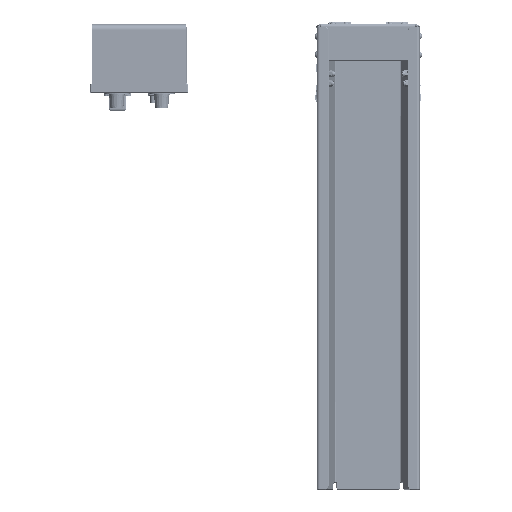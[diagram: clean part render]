
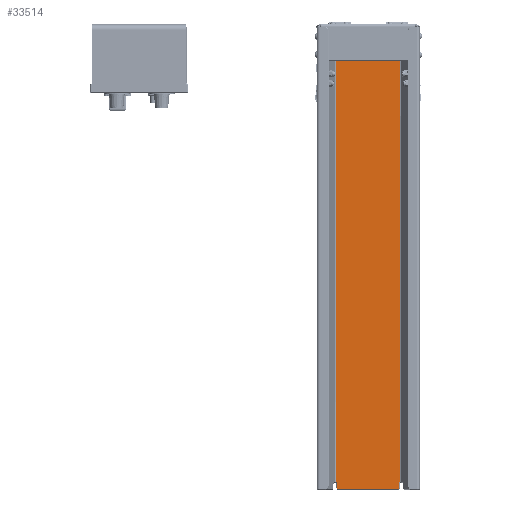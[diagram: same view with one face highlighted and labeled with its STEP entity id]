
A CAD part, top view. The second image highlights one B-rep face of the part: STEP entity #33514.
In plain terms, the highlighted planar face has unit normal (0, 0, 1).
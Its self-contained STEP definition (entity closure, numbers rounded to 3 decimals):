
#4 = VERTEX_POINT ( 'NONE', #5348 ) ;
#3694 = LINE ( 'NONE', #120792, #110603 ) ;
#5348 = CARTESIAN_POINT ( 'NONE',  ( 43.145, 288.05, 0. ) ) ;
#5616 = ORIENTED_EDGE ( 'NONE', *, *, #18194, .T. ) ;
#5849 = B_SPLINE_CURVE_WITH_KNOTS ( 'NONE', 3,
 ( #103730, #45209, #10578, #22112 ),
 .UNSPECIFIED., .F., .F.,
 ( 4, 4 ),
 ( 0., 1. ),
 .UNSPECIFIED. ) ;
#7528 = AXIS2_PLACEMENT_3D ( 'NONE', #67692, #19205, #91540 ) ;
#7710 = VERTEX_POINT ( 'NONE', #70841 ) ;
#9347 = CARTESIAN_POINT ( 'NONE',  ( -43.183, -298.05, 0. ) ) ;
#9932 = LINE ( 'NONE', #125450, #13293 ) ;
#10578 = CARTESIAN_POINT ( 'NONE',  ( 43.158, -298.044, 0. ) ) ;
#10917 = VERTEX_POINT ( 'NONE', #135264 ) ;
#11038 = CARTESIAN_POINT ( 'NONE',  ( 40.145, 298.05, 0. ) ) ;
#13293 = VECTOR ( 'NONE', #148526, 1000. ) ;
#13675 = B_SPLINE_CURVE_WITH_KNOTS ( 'NONE', 3,
 ( #55534, #103271, #140227, #9347 ),
 .UNSPECIFIED., .F., .F.,
 ( 4, 4 ),
 ( 0., 1. ),
 .UNSPECIFIED. ) ;
#18194 = EDGE_CURVE ( 'NONE', #23589, #65224, #129537, .T. ) ;
#19205 = DIRECTION ( 'NONE',  ( 0., 0., 1. ) ) ;
#19907 = ORIENTED_EDGE ( 'NONE', *, *, #80364, .T. ) ;
#20561 = LINE ( 'NONE', #76050, #103584 ) ;
#21300 = LINE ( 'NONE', #150641, #24625 ) ;
#22112 = CARTESIAN_POINT ( 'NONE',  ( 43.145, -298.041, 0. ) ) ;
#22871 = CARTESIAN_POINT ( 'NONE',  ( -40.145, 295.75, 0. ) ) ;
#23282 = ORIENTED_EDGE ( 'NONE', *, *, #32099, .T. ) ;
#23400 = ORIENTED_EDGE ( 'NONE', *, *, #134341, .T. ) ;
#23589 = VERTEX_POINT ( 'NONE', #71997 ) ;
#24625 = VECTOR ( 'NONE', #68282, 1000. ) ;
#28270 = CARTESIAN_POINT ( 'NONE',  ( 43.145, -298.041, 0. ) ) ;
#29088 = DIRECTION ( 'NONE',  ( -1., 0., 0. ) ) ;
#32099 = EDGE_CURVE ( 'NONE', #56813, #7710, #106124, .T. ) ;
#32600 = CARTESIAN_POINT ( 'NONE',  ( 40.145, 295.75, 0. ) ) ;
#33426 = ORIENTED_EDGE ( 'NONE', *, *, #141768, .T. ) ;
#33501 = VERTEX_POINT ( 'NONE', #88517 ) ;
#33514 = ADVANCED_FACE ( 'NONE', ( #44574 ), #90014, .T. ) ;
#35182 = DIRECTION ( 'NONE',  ( 1., 0., 0. ) ) ;
#36971 = VECTOR ( 'NONE', #134729, 1000. ) ;
#38899 = LINE ( 'NONE', #85119, #62343 ) ;
#39238 = ORIENTED_EDGE ( 'NONE', *, *, #94015, .T. ) ;
#39889 = DIRECTION ( 'NONE',  ( 0., -1., 0. ) ) ;
#44002 = ORIENTED_EDGE ( 'NONE', *, *, #117491, .T. ) ;
#44574 = FACE_OUTER_BOUND ( 'NONE', #120750, .T. ) ;
#45209 = CARTESIAN_POINT ( 'NONE',  ( 43.171, -298.047, 0. ) ) ;
#46485 = CIRCLE ( 'NONE', #152256, 2.3 ) ;
#49093 = DIRECTION ( 'NONE',  ( 1., 0., 0. ) ) ;
#50235 = VECTOR ( 'NONE', #139849, 1000. ) ;
#52363 = EDGE_CURVE ( 'NONE', #7710, #95345, #5849, .T. ) ;
#55534 = CARTESIAN_POINT ( 'NONE',  ( -43.145, -298.041, 0. ) ) ;
#56813 = VERTEX_POINT ( 'NONE', #62503 ) ;
#57892 = ORIENTED_EDGE ( 'NONE', *, *, #148507, .F. ) ;
#57895 = CARTESIAN_POINT ( 'NONE',  ( 42.445, 288.05, 0. ) ) ;
#59625 = ORIENTED_EDGE ( 'NONE', *, *, #96009, .F. ) ;
#59684 = VERTEX_POINT ( 'NONE', #130792 ) ;
#62343 = VECTOR ( 'NONE', #95130, 1000. ) ;
#62503 = CARTESIAN_POINT ( 'NONE',  ( -43.183, -298.05, 0. ) ) ;
#64942 = EDGE_CURVE ( 'NONE', #65224, #80130, #3694, .T. ) ;
#65224 = VERTEX_POINT ( 'NONE', #65286 ) ;
#65286 = CARTESIAN_POINT ( 'NONE',  ( -42.445, 295.75, 0. ) ) ;
#65502 = VERTEX_POINT ( 'NONE', #57895 ) ;
#67692 = CARTESIAN_POINT ( 'NONE',  ( 0., 0., 0. ) ) ;
#68282 = DIRECTION ( 'NONE',  ( 0., 1., 0. ) ) ;
#70841 = CARTESIAN_POINT ( 'NONE',  ( 43.183, -298.05, 0. ) ) ;
#71997 = CARTESIAN_POINT ( 'NONE',  ( -40.145, 298.05, 0. ) ) ;
#76050 = CARTESIAN_POINT ( 'NONE',  ( 43.145, 288.05, 0. ) ) ;
#79533 = DIRECTION ( 'NONE',  ( 0., 0., 1. ) ) ;
#80130 = VERTEX_POINT ( 'NONE', #85509 ) ;
#80364 = EDGE_CURVE ( 'NONE', #65502, #10917, #21300, .T. ) ;
#80544 = CARTESIAN_POINT ( 'NONE',  ( 43.145, 298.75, 0. ) ) ;
#85119 = CARTESIAN_POINT ( 'NONE',  ( -45.077, 288.05, 0. ) ) ;
#85509 = CARTESIAN_POINT ( 'NONE',  ( -42.445, 288.05, 0. ) ) ;
#86531 = EDGE_CURVE ( 'NONE', #95036, #23589, #9932, .T. ) ;
#88517 = CARTESIAN_POINT ( 'NONE',  ( -43.145, -298.041, 0. ) ) ;
#90014 = PLANE ( 'NONE',  #7528 ) ;
#91540 = DIRECTION ( 'NONE',  ( 1., 0., 0. ) ) ;
#94015 = EDGE_CURVE ( 'NONE', #10917, #95036, #46485, .T. ) ;
#95036 = VERTEX_POINT ( 'NONE', #11038 ) ;
#95130 = DIRECTION ( 'NONE',  ( -1., 0., 0. ) ) ;
#95259 = ORIENTED_EDGE ( 'NONE', *, *, #86531, .T. ) ;
#95345 = VERTEX_POINT ( 'NONE', #28270 ) ;
#96009 = EDGE_CURVE ( 'NONE', #33501, #59684, #123943, .T. ) ;
#100041 = CARTESIAN_POINT ( 'NONE',  ( -43.145, -299.304, 0. ) ) ;
#103271 = CARTESIAN_POINT ( 'NONE',  ( -43.158, -298.044, 0. ) ) ;
#103584 = VECTOR ( 'NONE', #29088, 1000. ) ;
#103730 = CARTESIAN_POINT ( 'NONE',  ( 43.183, -298.05, 0. ) ) ;
#105363 = CARTESIAN_POINT ( 'NONE',  ( 0., -298.05, 0. ) ) ;
#106124 = LINE ( 'NONE', #105363, #132748 ) ;
#110603 = VECTOR ( 'NONE', #39889, 1000. ) ;
#112297 = AXIS2_PLACEMENT_3D ( 'NONE', #22871, #116845, #35182 ) ;
#116845 = DIRECTION ( 'NONE',  ( 0., 0., 1. ) ) ;
#117491 = EDGE_CURVE ( 'NONE', #4, #65502, #20561, .T. ) ;
#117511 = LINE ( 'NONE', #80544, #50235 ) ;
#120750 = EDGE_LOOP ( 'NONE', ( #149157, #33426, #59625, #23400, #23282, #130575, #57892, #44002, #19907, #39238, #95259, #5616 ) ) ;
#120792 = CARTESIAN_POINT ( 'NONE',  ( -42.445, 288.75, 0. ) ) ;
#123943 = LINE ( 'NONE', #100041, #36971 ) ;
#125450 = CARTESIAN_POINT ( 'NONE',  ( 0., 298.05, 0. ) ) ;
#126518 = DIRECTION ( 'NONE',  ( 1., 0., 0. ) ) ;
#129537 = CIRCLE ( 'NONE', #112297, 2.3 ) ;
#130575 = ORIENTED_EDGE ( 'NONE', *, *, #52363, .T. ) ;
#130792 = CARTESIAN_POINT ( 'NONE',  ( -43.145, 288.05, 0. ) ) ;
#132748 = VECTOR ( 'NONE', #49093, 1000. ) ;
#134341 = EDGE_CURVE ( 'NONE', #33501, #56813, #13675, .T. ) ;
#134729 = DIRECTION ( 'NONE',  ( 0., 1., 0. ) ) ;
#135264 = CARTESIAN_POINT ( 'NONE',  ( 42.445, 295.75, 0. ) ) ;
#139849 = DIRECTION ( 'NONE',  ( 0., -1., 0. ) ) ;
#140227 = CARTESIAN_POINT ( 'NONE',  ( -43.171, -298.047, 0. ) ) ;
#141768 = EDGE_CURVE ( 'NONE', #80130, #59684, #38899, .T. ) ;
#148507 = EDGE_CURVE ( 'NONE', #4, #95345, #117511, .T. ) ;
#148526 = DIRECTION ( 'NONE',  ( -1., 0., 0. ) ) ;
#149157 = ORIENTED_EDGE ( 'NONE', *, *, #64942, .T. ) ;
#150641 = CARTESIAN_POINT ( 'NONE',  ( 42.445, 295.75, 0. ) ) ;
#152256 = AXIS2_PLACEMENT_3D ( 'NONE', #32600, #79533, #126518 ) ;
